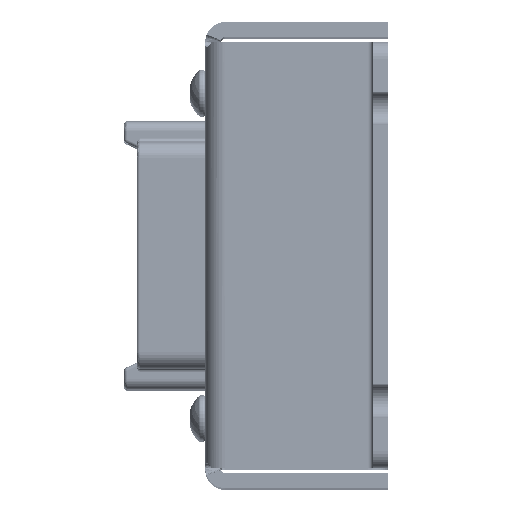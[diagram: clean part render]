
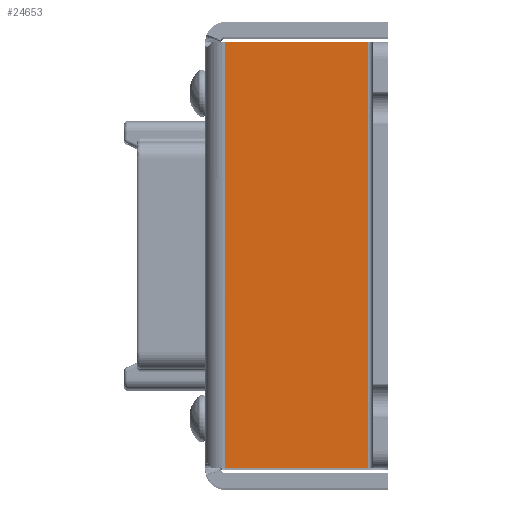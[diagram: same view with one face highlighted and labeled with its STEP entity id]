
A CAD part, top view. The second image highlights one B-rep face of the part: STEP entity #24653.
In plain terms, the highlighted planar face has unit normal (0, 0, 1).
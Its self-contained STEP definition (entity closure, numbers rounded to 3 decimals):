
#11473 = VECTOR ( 'NONE', #180081, 1000. ) ;
#14747 = CARTESIAN_POINT ( 'NONE',  ( 22.377, -32.283, 167.386 ) ) ;
#16957 = CARTESIAN_POINT ( 'NONE',  ( 22.377, 32.283, 167.386 ) ) ;
#17217 = ORIENTED_EDGE ( 'NONE', *, *, #185109, .T. ) ;
#18844 = CARTESIAN_POINT ( 'NONE',  ( 25.4, -32.283, 167.386 ) ) ;
#18904 = EDGE_LOOP ( 'NONE', ( #44437, #128225, #17217, #214980 ) ) ;
#20352 = CARTESIAN_POINT ( 'NONE',  ( 0., 32.283, 167.386 ) ) ;
#24653 = ADVANCED_FACE ( 'NONE', ( #65245 ), #79672, .F. ) ;
#33606 = CARTESIAN_POINT ( 'NONE',  ( 0.737, 32.283, 167.386 ) ) ;
#42778 = VECTOR ( 'NONE', #133864, 1000. ) ;
#44437 = ORIENTED_EDGE ( 'NONE', *, *, #148831, .T. ) ;
#48711 = LINE ( 'NONE', #114765, #42778 ) ;
#59687 = CARTESIAN_POINT ( 'NONE',  ( 0.737, -32.283, 167.386 ) ) ;
#65245 = FACE_OUTER_BOUND ( 'NONE', #18904, .T. ) ;
#79672 = PLANE ( 'NONE',  #123768 ) ;
#83898 = VECTOR ( 'NONE', #172207, 1000. ) ;
#93854 = EDGE_CURVE ( 'NONE', #178599, #141978, #207463, .T. ) ;
#98744 = DIRECTION ( 'NONE',  ( -1., 0., 0. ) ) ;
#99688 = LINE ( 'NONE', #18844, #123548 ) ;
#114765 = CARTESIAN_POINT ( 'NONE',  ( 0.737, 0., 167.386 ) ) ;
#123548 = VECTOR ( 'NONE', #151533, 1000. ) ;
#123768 = AXIS2_PLACEMENT_3D ( 'NONE', #155168, #212477, #98744 ) ;
#128225 = ORIENTED_EDGE ( 'NONE', *, *, #189118, .F. ) ;
#133864 = DIRECTION ( 'NONE',  ( 0., 1., 0. ) ) ;
#134421 = LINE ( 'NONE', #20352, #83898 ) ;
#141978 = VERTEX_POINT ( 'NONE', #14747 ) ;
#148831 = EDGE_CURVE ( 'NONE', #178599, #200119, #134421, .T. ) ;
#151533 = DIRECTION ( 'NONE',  ( 1., 0., 0. ) ) ;
#155168 = CARTESIAN_POINT ( 'NONE',  ( 0., 0., 167.386 ) ) ;
#160944 = CARTESIAN_POINT ( 'NONE',  ( 22.377, 32.283, 167.386 ) ) ;
#172207 = DIRECTION ( 'NONE',  ( -1., 0., 0. ) ) ;
#178599 = VERTEX_POINT ( 'NONE', #16957 ) ;
#180081 = DIRECTION ( 'NONE',  ( 0., -1., 0. ) ) ;
#185109 = EDGE_CURVE ( 'NONE', #187127, #141978, #99688, .T. ) ;
#187127 = VERTEX_POINT ( 'NONE', #59687 ) ;
#189118 = EDGE_CURVE ( 'NONE', #187127, #200119, #48711, .T. ) ;
#200119 = VERTEX_POINT ( 'NONE', #33606 ) ;
#207463 = LINE ( 'NONE', #160944, #11473 ) ;
#212477 = DIRECTION ( 'NONE',  ( 0., 0., -1. ) ) ;
#214980 = ORIENTED_EDGE ( 'NONE', *, *, #93854, .F. ) ;
